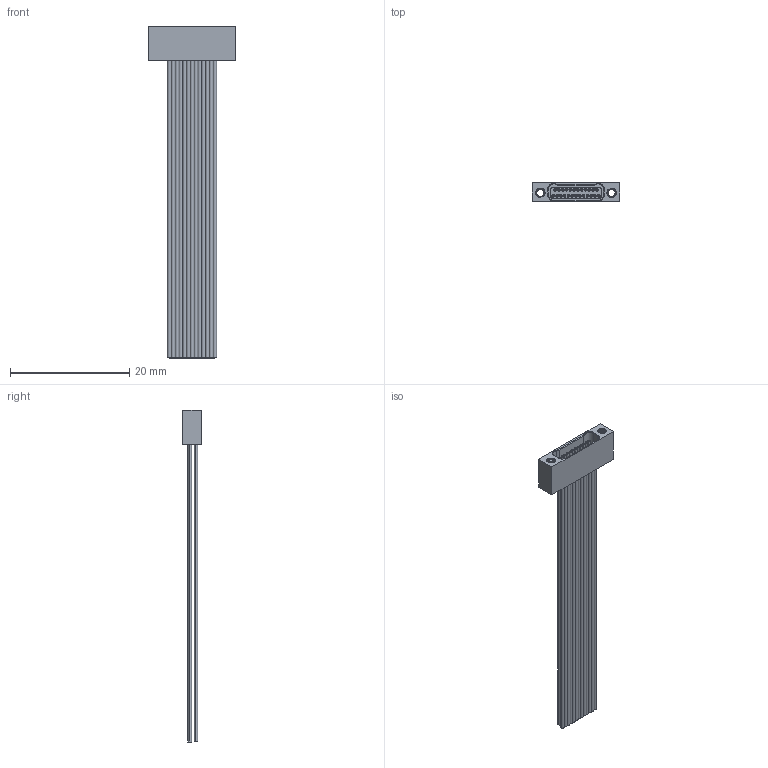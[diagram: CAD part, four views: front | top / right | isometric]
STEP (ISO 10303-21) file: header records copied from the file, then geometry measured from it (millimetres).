
FILE_DESCRIPTION (( 'STEP AP214' ), '1' );
FILE_NAME ('A29000-025 REV G.STEP', '2015-11-04T20:01:40', ( '' ), ( '' ), 'SwSTEP 2.0', 'SolidWorks 2015', '' );
FILE_SCHEMA (( 'AUTOMOTIVE_DESIGN' ));
Length unit declared in the file: inch
Products named in the file (1): A29000-025
Bounding box: 14.61 x 3.19 x 55.66 mm (x, y, z)
Volume: 552.2 mm3; surface area: 3085.4 mm2
Topology: 1 solids, 26 shells, 777 faces, 1745 edges, 1108 vertices
Faces by surface type: cylinder 344, plane 265, torus 100, bspline 54, cone 14
Entity records: 27219 total; most frequent: CARTESIAN_POINT 9225, DIRECTION 3815, ORIENTED_EDGE 3486, EDGE_CURVE 1743, AXIS2_PLACEMENT_3D 1528, VERTEX_POINT 1108, EDGE_LOOP 921, CIRCLE 804
